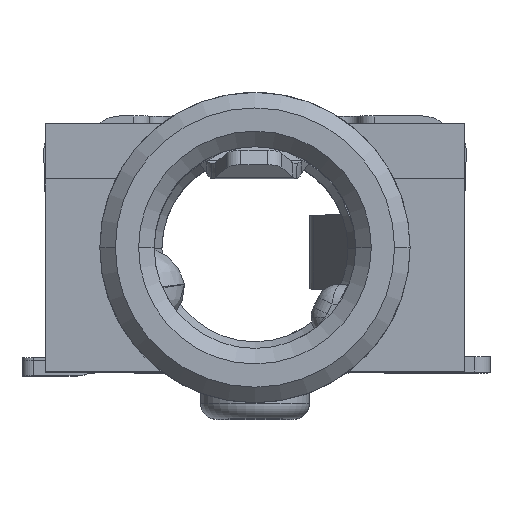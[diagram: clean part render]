
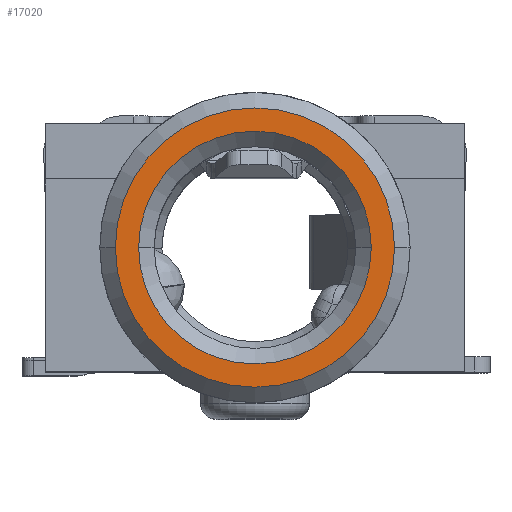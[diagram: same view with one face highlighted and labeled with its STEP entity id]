
A CAD part, top view. The second image highlights one B-rep face of the part: STEP entity #17020.
In plain terms, the highlighted planar face has unit normal (0, 0, 1).
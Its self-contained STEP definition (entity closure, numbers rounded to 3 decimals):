
#1100=CARTESIAN_POINT('',(0.,0.,1.5));
#1101=DIRECTION('',(0.,0.,-1.));
#1102=DIRECTION('',(1.,0.,0.));
#1103=AXIS2_PLACEMENT_3D('',#1100,#1101,#1102);
#1109=CARTESIAN_POINT('',(0.,0.,1.5));
#1110=DIRECTION('',(0.,0.,-1.));
#1111=DIRECTION('',(-1.,0.,0.));
#1112=AXIS2_PLACEMENT_3D('',#1109,#1110,#1111);
#1123=CARTESIAN_POINT('',(0.,0.,1.5));
#1124=DIRECTION('',(0.,0.,1.));
#1125=DIRECTION('',(1.,0.,0.));
#1126=AXIS2_PLACEMENT_3D('',#1123,#1124,#1125);
#1146=CARTESIAN_POINT('',(0.,0.,1.5));
#1147=DIRECTION('',(0.,0.,1.));
#1148=DIRECTION('',(-1.,0.,0.));
#1149=AXIS2_PLACEMENT_3D('',#1146,#1147,#1148);
#13565=CARTESIAN_POINT('',(-1.8,0.,1.5));
#13566=VERTEX_POINT('',#13565);
#13567=CARTESIAN_POINT('',(1.8,0.,1.5));
#13568=VERTEX_POINT('',#13567);
#14015=CARTESIAN_POINT('',(1.5,0.,1.5));
#14016=VERTEX_POINT('',#14015);
#14017=CARTESIAN_POINT('',(-1.5,0.,1.5));
#14018=VERTEX_POINT('',#14017);
#17005=CARTESIAN_POINT('',(0.,0.,1.5));
#17006=DIRECTION('',(0.,0.,1.));
#17007=DIRECTION('',(1.,0.,0.));
#17008=AXIS2_PLACEMENT_3D('',#17005,#17006,#17007);
#17009=PLANE('',#17008);
#17010=ORIENTED_EDGE('',*,*,#16997,.T.);
#17011=ORIENTED_EDGE('',*,*,#16985,.T.);
#17012=EDGE_LOOP('',(#17010,#17011));
#17013=FACE_OUTER_BOUND('',#17012,.F.);
#17015=ORIENTED_EDGE('',*,*,#17014,.T.);
#17017=ORIENTED_EDGE('',*,*,#17016,.T.);
#17018=EDGE_LOOP('',(#17015,#17017));
#17019=FACE_BOUND('',#17018,.F.);
#17020=ADVANCED_FACE('',(#17013,#17019),#17009,.T.);
#1104=CIRCLE('',#1103,1.8);
#1113=CIRCLE('',#1112,1.8);
#1127=CIRCLE('',#1126,1.5);
#1150=CIRCLE('',#1149,1.5);
#16985=EDGE_CURVE('',#13568,#13566,#1104,.T.);
#16997=EDGE_CURVE('',#13566,#13568,#1113,.T.);
#17014=EDGE_CURVE('',#14016,#14018,#1127,.T.);
#17016=EDGE_CURVE('',#14018,#14016,#1150,.T.);
